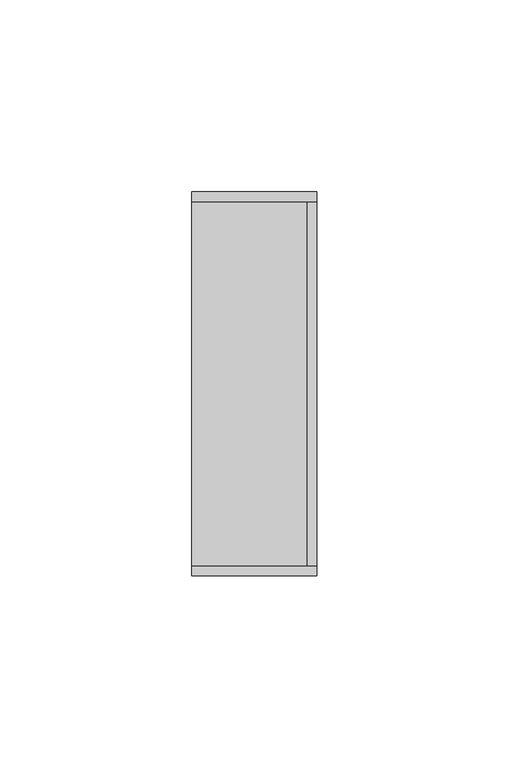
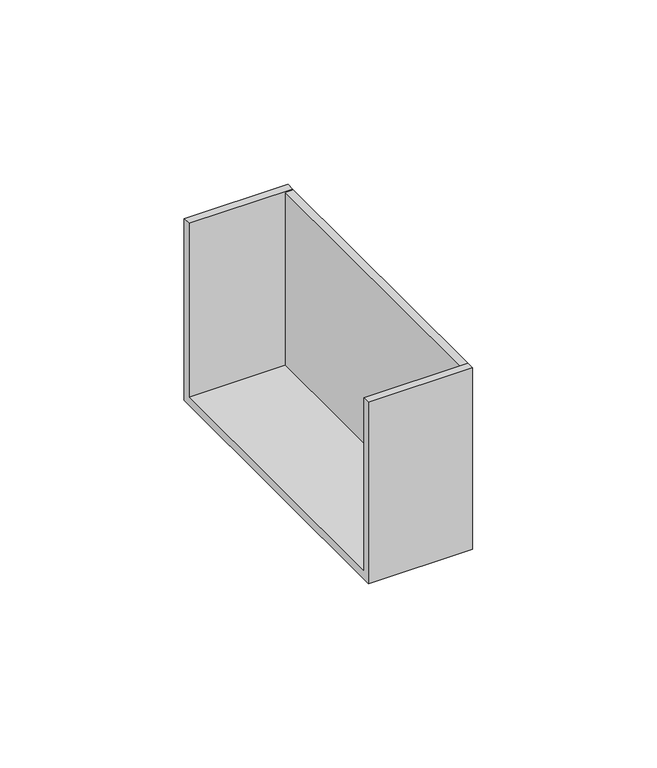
"""IFC4 building model written with IfcOpenShell, lengths in millimetres: cable carrier fitting geometry, КНС_ЗаглушкаТорцеваяLAN_ILC_DKC : Заглушка торцевая LAN_DKC."""

from ifc_helpers import new_model, si_unit, frame, origin, place, context, project, spatial, polyline, outline, extrude, source, transform, mapped, element, save


def cable_carrier_fitting_4aacc9ff(model_context):
    return source(origin(), model_context, "Body", "SweptSolid", [
        extrude(outline(polyline([(50.0, -30.0), (-50.0, -30.0), (-50.0, 30.0), (-47.5, 30.0), (-47.5, -27.5), (47.5, -27.5), (47.5, 30.0), (50.0, 30.0), (50.0, -30.0)])), frame((-32.5, 0.0, 0.0), z_axis=(1.0, 0.0, 0.0), x_axis=(0.0, 1.0, 0.0)), (0.0, 0.0, 1.0), 32.5),
        extrude(outline(polyline([(0.0, 47.5), (0.0, -47.5), (-2.5, -47.5), (-2.5, 47.5), (0.0, 47.5)])), frame((0.0, 0.0, -30.0), z_axis=(0.0, 0.0, 1.0), x_axis=(1.0, 0.0, 0.0)), (0.0, 0.0, 1.0), 60.0),
    ])


if __name__ == "__main__":
    model = new_model("IFC4")
    model_context = context("Model", 3, world=origin())
    ifc_project = project(units=[si_unit("LENGTHUNIT", "METRE", prefix="MILLI")], contexts=[model_context])
    site = spatial("IfcSite", under=ifc_project)
    building = spatial("IfcBuilding", under=site)
    placement = place(None, origin())
    cable_carrier_fitting_shape = cable_carrier_fitting_4aacc9ff(model_context)
    element("IfcCableCarrierFitting", 1, ObjectType="КНС_ЗаглушкаТорцеваяLAN_ILC_DKC : Заглушка торцевая LAN_DKC", at=placement, inside=building, context=model_context, shape_type="MappedRepresentation", body=[
        mapped(cable_carrier_fitting_shape, transform((0.0, 0.0, 0.0), x_axis=(1.0, 0.0, 0.0), y_axis=(0.0, 1.0, 0.0), z_axis=(0.0, 0.0, 1.0))),
    ])
    save(model, "model.ifc")
